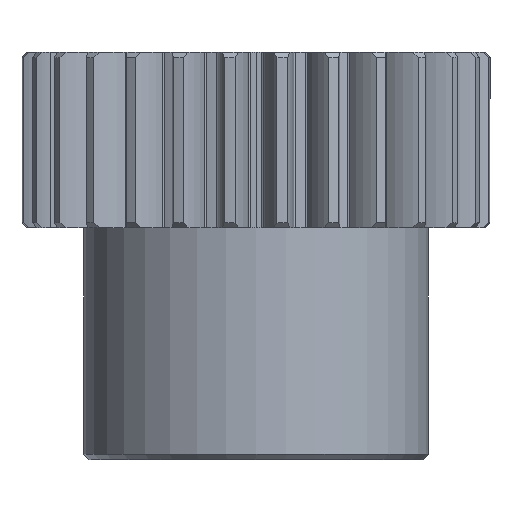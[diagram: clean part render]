
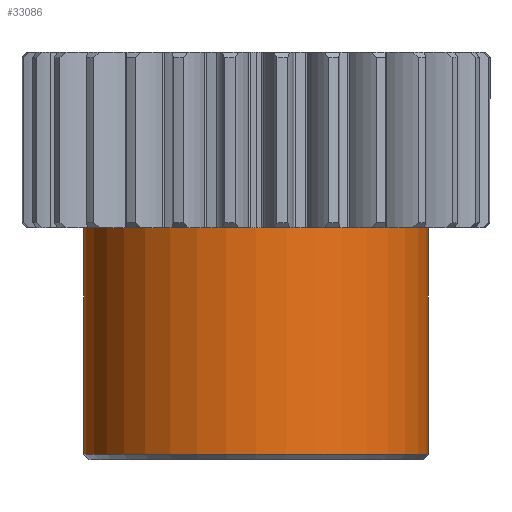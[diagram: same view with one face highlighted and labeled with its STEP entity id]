
A CAD part, left-side view. The second image highlights one B-rep face of the part: STEP entity #33086.
In plain terms, the highlighted cylindrical face has radius 27.5 mm (diameter 55 mm), a partial arc.
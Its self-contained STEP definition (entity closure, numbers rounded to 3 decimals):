
#3 = VECTOR ( 'NONE', #21314, 1000. ) ;
#190 = DIRECTION ( 'NONE',  ( 0., 1., 0. ) ) ;
#331 = VERTEX_POINT ( 'NONE', #24987 ) ;
#727 = CARTESIAN_POINT ( 'NONE',  ( 0., 27.5, 0. ) ) ;
#2413 = ORIENTED_EDGE ( 'NONE', *, *, #22370, .F. ) ;
#4124 = VERTEX_POINT ( 'NONE', #18145 ) ;
#4309 = ORIENTED_EDGE ( 'NONE', *, *, #24843, .T. ) ;
#4939 = VECTOR ( 'NONE', #27332, 1000. ) ;
#5151 = AXIS2_PLACEMENT_3D ( 'NONE', #25834, #15521, #190 ) ;
#5253 = ORIENTED_EDGE ( 'NONE', *, *, #26540, .T. ) ;
#6337 = AXIS2_PLACEMENT_3D ( 'NONE', #12959, #15663, #8138 ) ;
#6957 = VERTEX_POINT ( 'NONE', #27245 ) ;
#7001 = ORIENTED_EDGE ( 'NONE', *, *, #16673, .T. ) ;
#8138 = DIRECTION ( 'NONE',  ( 0., 1., 0. ) ) ;
#9036 = CIRCLE ( 'NONE', #27619, 27.5 ) ;
#9738 = CARTESIAN_POINT ( 'NONE',  ( 0., 0., 37. ) ) ;
#12959 = CARTESIAN_POINT ( 'NONE',  ( 0., 0., 0. ) ) ;
#15521 = DIRECTION ( 'NONE',  ( 0., 0., 1. ) ) ;
#15663 = DIRECTION ( 'NONE',  ( 0., 0., -1. ) ) ;
#15781 = LINE ( 'NONE', #21919, #4939 ) ;
#16209 = VERTEX_POINT ( 'NONE', #17668 ) ;
#16673 = EDGE_CURVE ( 'NONE', #6957, #331, #9036, .T. ) ;
#16869 = CIRCLE ( 'NONE', #5151, 27.5 ) ;
#17668 = CARTESIAN_POINT ( 'NONE',  ( 0., -27.5, 0.825 ) ) ;
#17944 = DIRECTION ( 'NONE',  ( 0., 1., 0. ) ) ;
#18145 = CARTESIAN_POINT ( 'NONE',  ( 0., 27.5, 0.825 ) ) ;
#19222 = LINE ( 'NONE', #727, #3 ) ;
#19426 = CYLINDRICAL_SURFACE ( 'NONE', #6337, 27.5 ) ;
#21314 = DIRECTION ( 'NONE',  ( 0., 0., -1. ) ) ;
#21919 = CARTESIAN_POINT ( 'NONE',  ( 0., -27.5, 0. ) ) ;
#22370 = EDGE_CURVE ( 'NONE', #6957, #16209, #15781, .T. ) ;
#22632 = FACE_OUTER_BOUND ( 'NONE', #25612, .T. ) ;
#24843 = EDGE_CURVE ( 'NONE', #4124, #16209, #16869, .T. ) ;
#24987 = CARTESIAN_POINT ( 'NONE',  ( 0., 27.5, 37. ) ) ;
#25612 = EDGE_LOOP ( 'NONE', ( #2413, #7001, #5253, #4309 ) ) ;
#25834 = CARTESIAN_POINT ( 'NONE',  ( 0., 0., 0.825 ) ) ;
#26540 = EDGE_CURVE ( 'NONE', #331, #4124, #19222, .T. ) ;
#27245 = CARTESIAN_POINT ( 'NONE',  ( 0., -27.5, 37. ) ) ;
#27332 = DIRECTION ( 'NONE',  ( 0., 0., -1. ) ) ;
#27619 = AXIS2_PLACEMENT_3D ( 'NONE', #9738, #30163, #17944 ) ;
#30163 = DIRECTION ( 'NONE',  ( 0., 0., -1. ) ) ;
#33086 = ADVANCED_FACE ( 'NONE', ( #22632 ), #19426, .T. ) ;
